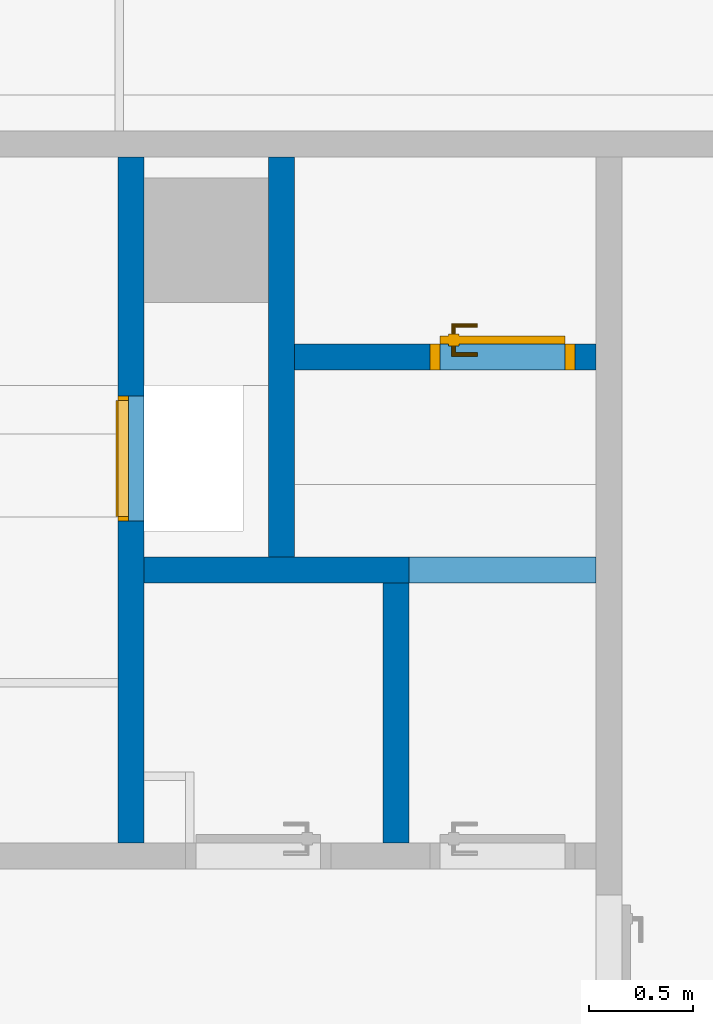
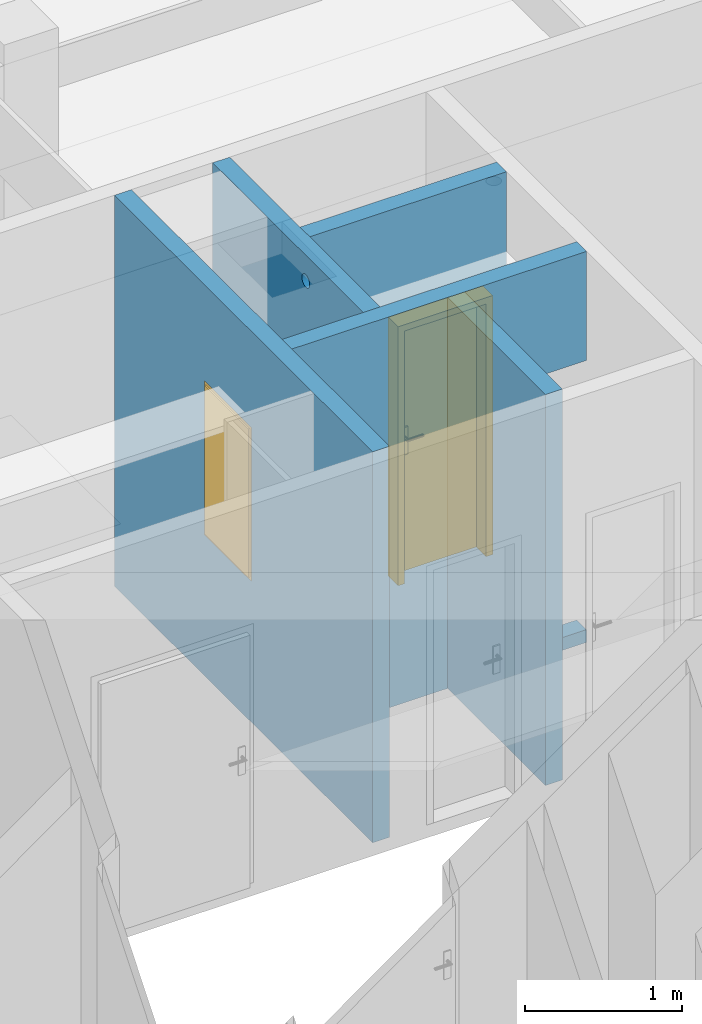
# One storey, part 38 of 84: 5 walls, 1 door, 1 window, 4 openings.
"""IFC4 building model written with IfcOpenShell, lengths in metres."""

from ifc_helpers import new_model, entity, si_unit, converted_unit, derived_unit, frame, frame_2d, origin, origin_with_axes, place, context, subcontext, project, spatial, polyline, rectangle, outline, extrude, closed_shell, open_shell, faceted_brep, surface_model, source, transform, mapped, material, layer, layer_set, layer_usage, type_object, element, fill, save


model = new_model("IFC4")

# Units and contexts
model_context = context("Model", 3, precision=1e-05, world=origin())
body_context = subcontext(model_context, "Body", "Model", "MODEL_VIEW")
ifc_project = project(units=[si_unit("LENGTHUNIT", "METRE"), si_unit("AREAUNIT", "SQUARE_METRE"), si_unit("VOLUMEUNIT", "CUBIC_METRE"), si_unit("MASSUNIT", "GRAM", prefix="KILO"), converted_unit("PLANEANGLEUNIT", "DEGREE", entity("IfcPlaneAngleMeasure", 0.0174532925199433), si_unit("PLANEANGLEUNIT", "RADIAN"), dimensions=[0, 0, 0, 0, 0, 0, 0]), derived_unit("THERMALTRANSMITTANCEUNIT", [(si_unit("POWERUNIT", "WATT"), 1), (si_unit("THERMODYNAMICTEMPERATUREUNIT", "KELVIN"), -1), (si_unit("LENGTHUNIT", "METRE"), -2)]), derived_unit("VOLUMETRICFLOWRATEUNIT", [(si_unit("LENGTHUNIT", "METRE"), 3), (converted_unit("TIMEUNIT", "hour", entity("IfcTimeMeasure", 3600.0), si_unit("TIMEUNIT", "SECOND"), dimensions=[0, 0, 1, 0, 0, 0, 0]), -1), (si_unit("LENGTHUNIT", "METRE"), -1)])], contexts=[model_context])

# Site, building, storey
site_placement = place(None, origin())
site = spatial("IfcSite", under=ifc_project, at=site_placement, Name="3. ASŘ", CompositionType="ELEMENT")
building_placement = place(site_placement, origin())
building = spatial("IfcBuilding", under=site, at=building_placement, Name="Pavilon C", CompositionType="ELEMENT")
storey_placement = place(building_placement, frame((0.0, 0.0, -3.3)))
storey = spatial("IfcBuildingStorey", under=building, at=storey_placement, Name="Půdorys 1.PP", CompositionType="ELEMENT", Elevation=-3.3)

# Wall, opening, window
ifc_material_1 = material(Name="ZDIVO Z CDm")
ifc_layer_1 = layer(ifc_material_1, 0.125)
ifc_layer_set_1 = layer_set([ifc_layer_1])
ifc_layer_usage_1 = layer_usage(ifc_layer_set_1, "AXIS2", "POSITIVE", 0.0)
wall_1_placement = place(storey_placement, frame((43.65, 16.3, -0.1), z_axis=(0.0, 0.0, 1.0), x_axis=(0.0, 1.0, 0.0)))
wall_1 = element("IfcWall", 1, at=wall_1_placement, inside=storey, material=ifc_layer_usage_1, Name="ZDIVO Z CDm", context=body_context, shape_type="SweptSolid", body=[
    extrude(rectangle(XDim=3.3, YDim=0.125, at=frame_2d((1.65, 0.0625), x_axis=(1.0, 0.0))), origin_with_axes(), (0.0, 0.0, 1.0), 3.05),
])
opening_1_placement = place(wall_1_placement, frame((2.14999999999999, 0.125, 1.1), z_axis=(0.0, -1.0, 0.0), x_axis=(0.0, 0.0, 1.0)))
opening_1 = element("IfcOpeningElement", 2, at=opening_1_placement, cuts=wall_1, Name="Okenní otvor", ObjectType="Opening", context=body_context, shape_type="SweptSolid", body=[
    extrude(outline(polyline([(0.0, 0.6), (1.2, 0.6), (1.2, 0.0), (0.0, 0.0), (0.0, 0.6)])), origin_with_axes(), (0.0, 0.0, 1.0), 0.125),
])
shared_shape_1 = source(origin_with_axes(), body_context, "Body", "Brep", [
    faceted_brep([(0.0, 0.0600000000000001, 1.2), (0.0, 0.06, 4.91096680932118e-19), (0.02, 0.06, 4.91096680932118e-19), (0.02, 0.0600000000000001, 1.2), (0.0, 0.01, 6.61433067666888e-18), (0.0, 0.0100000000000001, 1.2), (0.02, 0.0100000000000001, 1.2), (0.02, 0.01, 6.61433067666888e-18)], [[[0, 1, 2, 3]], [[4, 5, 6, 7]], [[1, 0, 5, 4]], [[2, 1, 4, 7]], [[3, 2, 7, 6]], [[0, 3, 6, 5]]], orient=[[False], [False], [False], [False], [False], [False]]),
    faceted_brep([(0.58, 0.0600000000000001, 1.2), (0.58, 0.06, 4.91096680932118e-19), (0.6, 0.06, 4.91096680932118e-19), (0.6, 0.0600000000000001, 1.2), (0.58, 0.01, 6.61433067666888e-18), (0.58, 0.0100000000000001, 1.2), (0.6, 0.0100000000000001, 1.2), (0.6, 0.01, 6.61433067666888e-18)], [[[0, 1, 2, 3]], [[4, 5, 6, 7]], [[1, 0, 5, 4]], [[2, 1, 4, 7]], [[3, 2, 7, 6]], [[0, 3, 6, 5]]], orient=[[False], [False], [False], [False], [False], [False]]),
    faceted_brep([(0.02, 0.06, 0.02), (0.02, 0.06, 4.91096680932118e-19), (0.58, 0.06, 4.91096680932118e-19), (0.58, 0.06, 0.02), (0.02, 0.01, 6.61433067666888e-18), (0.02, 0.01, 0.02), (0.58, 0.01, 0.02), (0.58, 0.01, 6.61433067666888e-18)], [[[0, 1, 2, 3]], [[4, 5, 6, 7]], [[1, 0, 5, 4]], [[2, 1, 4, 7]], [[3, 2, 7, 6]], [[0, 3, 6, 5]]], orient=[[False], [False], [False], [False], [False], [False]]),
    faceted_brep([(0.02, 0.0600000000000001, 1.2), (0.02, 0.0600000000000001, 1.18), (0.58, 0.0600000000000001, 1.18), (0.58, 0.0600000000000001, 1.2), (0.02, 0.0100000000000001, 1.18), (0.02, 0.0100000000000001, 1.2), (0.58, 0.0100000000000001, 1.2), (0.58, 0.0100000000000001, 1.18)], [[[0, 1, 2, 3]], [[4, 5, 6, 7]], [[1, 0, 5, 4]], [[2, 1, 4, 7]], [[3, 2, 7, 6]], [[0, 3, 6, 5]]], orient=[[False], [False], [False], [False], [False], [False]]),
    faceted_brep([(0.02, 0.0100000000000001, 1.18), (0.02, 0.01, 0.02), (0.58, 0.01, 0.02), (0.58, 0.0100000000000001, 1.18), (0.02, 0.0, 0.02), (0.02, 1.4210854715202e-16, 1.18), (0.58, 1.4210854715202e-16, 1.18), (0.58, 0.0, 0.02)], [[[0, 1, 2, 3]], [[4, 5, 6, 7]], [[1, 0, 5, 4]], [[2, 1, 4, 7]], [[3, 2, 7, 6]], [[0, 3, 6, 5]]], orient=[[False], [False], [False], [False], [False], [False]]),
])
window_placement = place(opening_1_placement, frame((0.0, 7.27595761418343e-15, -0.0100000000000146), z_axis=(1.0, 0.0, 0.0), x_axis=(0.0, 1.0, 1.22464679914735e-16)))
window = element("IfcWindow", 3, at=window_placement, inside=storey, Name="O01", OverallHeight=1.2, OverallWidth=0.6, PartitioningType="USERDEFINED", PredefinedType="WINDOW", context=body_context, shape_type="MappedRepresentation", body=[
    mapped(shared_shape_1, transform((0.0, 0.0, 0.0), x_axis=(1.0, 0.0, 0.0), y_axis=(0.0, 1.0, 0.0), z_axis=(0.0, 0.0, 1.0), scale=1.0)),
])
fill(opening_1, window)

# Wall, opening, door
ifc_material_2 = material(Name="ZDIVO Z CDm")
ifc_layer_2 = layer(ifc_material_2, 0.125)
ifc_layer_set_2 = layer_set([ifc_layer_2])
ifc_layer_usage_2 = layer_usage(ifc_layer_set_2, "AXIS2", "POSITIVE", 0.0)
wall_2_placement = place(storey_placement, frame((45.825, 18.7, -0.1), z_axis=(0.0, 0.0, 1.0), x_axis=(-1.0, 0.0, 0.0)))
wall_2 = element("IfcWall", 4, at=wall_2_placement, inside=storey, material=ifc_layer_usage_2, Name="ZDIVO Z CDm", context=body_context, shape_type="SweptSolid", body=[
    extrude(rectangle(XDim=1.45, YDim=0.125, at=frame_2d((0.725, 0.0625), x_axis=(1.0, 0.0))), origin_with_axes(), (0.0, 0.0, 1.0), 3.05),
])
opening_2_placement = place(wall_2_placement, frame((0.1, 0.0, 0.1), z_axis=(0.0, 1.0, 0.0), x_axis=(0.0, 0.0, 1.0)))
opening_2 = element("IfcOpeningElement", 5, at=opening_2_placement, cuts=wall_2, Name="Dveřní otvor", ObjectType="Opening", context=body_context, shape_type="SweptSolid", body=[
    extrude(outline(polyline([(0.0, 0.7), (2.02, 0.7), (2.02, 0.0), (0.0, 0.0), (0.0, 0.7)])), origin_with_axes(), (0.0, 0.0, 1.0), 0.125),
])
door_type = type_object("IfcDoorType", Name="D101", OperationType="NOTDEFINED", ParameterTakesPrecedence=False, PredefinedType="DOOR")
shared_shape_2 = source(origin_with_axes(), body_context, "Body", "SurfaceModel", [
    surface_model("IfcShellBasedSurfaceModel", [(0.0, 0.125, 2.02), (0.0, 0.125, -7.65404249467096e-18), (0.05, 0.125, -7.65404249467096e-18), (0.05, 0.125, 2.02), (0.0, 0.0, 7.65404249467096e-18), (0.0, 2.41584530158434e-16, 2.02), (0.05, 2.41584530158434e-16, 2.02), (0.05, 0.0, 7.65404249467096e-18)], [closed_shell([[[0, 1, 2, 3]], [[4, 5, 6, 7]], [[1, 0, 5, 4]], [[2, 1, 4, 7]], [[3, 2, 7, 6]], [[0, 3, 6, 5]]], orient=[[False], [False], [False], [False], [False], [False]])]),
    surface_model("IfcShellBasedSurfaceModel", [(0.65, 0.125, 2.02), (0.65, 0.125, -7.65404249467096e-18), (0.7, 0.125, -7.65404249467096e-18), (0.7, 0.125, 2.02), (0.65, 0.0, 7.65404249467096e-18), (0.65, 2.41584530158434e-16, 2.02), (0.7, 2.41584530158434e-16, 2.02), (0.7, 0.0, 7.65404249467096e-18)], [closed_shell([[[0, 1, 2, 3]], [[4, 5, 6, 7]], [[1, 0, 5, 4]], [[2, 1, 4, 7]], [[3, 2, 7, 6]], [[0, 3, 6, 5]]], orient=[[False], [False], [False], [False], [False], [False]])]),
    surface_model("IfcShellBasedSurfaceModel", [(0.05, 0.125, 2.02), (0.05, 0.125, 1.97), (0.65, 0.125, 1.97), (0.65, 0.125, 2.02), (0.05, 2.41584530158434e-16, 1.97), (0.05, 2.41584530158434e-16, 2.02), (0.65, 2.41584530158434e-16, 2.02), (0.65, 2.41584530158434e-16, 1.97)], [closed_shell([[[0, 1, 2, 3]], [[4, 5, 6, 7]], [[1, 0, 5, 4]], [[2, 1, 4, 7]], [[3, 2, 7, 6]], [[0, 3, 6, 5]]], orient=[[False], [False], [False], [False], [False], [False]])]),
    surface_model("IfcShellBasedSurfaceModel", [(0.05, 0.165, 1.97), (0.05, 0.165, -1.25526296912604e-17), (0.65, 0.165, -1.25526296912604e-17), (0.65, 0.165, 1.97), (0.05, 0.125, -7.65404249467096e-18), (0.05, 0.125, 1.97), (0.65, 0.125, 1.97), (0.65, 0.125, -7.65404249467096e-18)], [closed_shell([[[0, 1, 2, 3]], [[4, 5, 6, 7]], [[1, 0, 5, 4]], [[2, 1, 4, 7]], [[3, 2, 7, 6]], [[0, 3, 6, 5]]], orient=[[False], [False], [False], [False], [False], [False]])]),
    surface_model("IfcShellBasedSurfaceModel", [(0.56, 0.125, 1.125), (0.56, 0.125, 0.91), (0.61, 0.125, 0.91), (0.61, 0.125, 1.125), (0.56, 0.115, 0.91), (0.56, 0.115, 1.125), (0.61, 0.115, 1.125), (0.61, 0.115, 0.91)], [closed_shell([[[0, 1, 2, 3]], [[4, 5, 6, 7]], [[1, 0, 5, 4]], [[2, 1, 4, 7]], [[3, 2, 7, 6]], [[0, 3, 6, 5]]], orient=[[False], [False], [False], [False], [False], [False]])]),
    surface_model("IfcShellBasedSurfaceModel", [(0.585, 0.115, 1.06), (0.58, 0.115, 1.05866025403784), (0.576339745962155, 0.115, 1.055), (0.575, 0.115, 1.05), (0.576339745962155, 0.115, 1.045), (0.58, 0.115, 1.04133974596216), (0.585, 0.115, 1.04), (0.59, 0.115, 1.04133974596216), (0.593660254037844, 0.115, 1.045), (0.595, 0.115, 1.05), (0.593660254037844, 0.115, 1.055), (0.59, 0.115, 1.05866025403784), (0.59, 0.0700000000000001, 1.05866025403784), (0.585, 0.0750000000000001, 1.06), (0.593660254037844, 0.0663397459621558, 1.055), (0.595, 0.0650000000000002, 1.05), (0.593660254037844, 0.0663397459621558, 1.045), (0.59, 0.0700000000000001, 1.04133974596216), (0.585, 0.0750000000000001, 1.04), (0.58, 0.0800000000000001, 1.04133974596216), (0.576339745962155, 0.0836602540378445, 1.045), (0.575, 0.0850000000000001, 1.05), (0.576339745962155, 0.0836602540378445, 1.055), (0.58, 0.0800000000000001, 1.05866025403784), (0.47, 0.0700000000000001, 1.05866025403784), (0.47, 0.0750000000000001, 1.06), (0.47, 0.0663397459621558, 1.055), (0.47, 0.0650000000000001, 1.05), (0.47, 0.0663397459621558, 1.045), (0.47, 0.0700000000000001, 1.04133974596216), (0.47, 0.0750000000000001, 1.04), (0.47, 0.0800000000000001, 1.04133974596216), (0.47, 0.0836602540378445, 1.045), (0.47, 0.0850000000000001, 1.05), (0.47, 0.0836602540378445, 1.055), (0.47, 0.0800000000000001, 1.05866025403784)], [open_shell([[[0, 1, 2, 3, 4, 5, 6, 7, 8, 9, 10, 11]], [[0, 11, 12, 13]], [[11, 10, 14, 12]], [[10, 9, 15, 14]], [[9, 8, 16, 15]], [[8, 7, 17, 16]], [[7, 6, 18, 17]], [[6, 5, 19, 18]], [[5, 4, 20, 19]], [[4, 3, 21, 20]], [[3, 2, 22, 21]], [[2, 1, 23, 22]], [[1, 0, 13, 23]], [[13, 12, 24, 25]], [[12, 14, 26, 24]], [[14, 15, 27, 26]], [[15, 16, 28, 27]], [[16, 17, 29, 28]], [[17, 18, 30, 29]], [[18, 19, 31, 30]], [[19, 20, 32, 31]], [[20, 21, 33, 32]], [[21, 22, 34, 33]], [[22, 23, 35, 34]], [[23, 13, 25, 35]]], orient=[[False], [False], [False], [False], [False], [False], [False], [False], [False], [False], [False], [False], [False], [False], [False], [False], [False], [False], [False], [False], [False], [False], [False], [False], [False]])]),
    surface_model("IfcShellBasedSurfaceModel", [(0.56, 0.165, 1.125), (0.61, 0.165, 1.125), (0.61, 0.165, 0.91), (0.56, 0.165, 0.91), (0.56, 0.175, 0.91), (0.61, 0.175, 0.91), (0.61, 0.175, 1.125), (0.56, 0.175, 1.125)], [closed_shell([[[0, 1, 2, 3]], [[4, 5, 6, 7]], [[3, 4, 7, 0]], [[2, 5, 4, 3]], [[1, 6, 5, 2]], [[0, 7, 6, 1]]], orient=[[False], [False], [False], [False], [False], [False]])]),
    surface_model("IfcShellBasedSurfaceModel", [(0.585, 0.175, 1.06), (0.59, 0.175, 1.05866025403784), (0.593660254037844, 0.175, 1.055), (0.595, 0.175, 1.05), (0.593660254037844, 0.175, 1.045), (0.59, 0.175, 1.04133974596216), (0.585, 0.175, 1.04), (0.58, 0.175, 1.04133974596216), (0.576339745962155, 0.175, 1.045), (0.575, 0.175, 1.05), (0.576339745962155, 0.175, 1.055), (0.58, 0.175, 1.05866025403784), (0.585, 0.215, 1.06), (0.59, 0.22, 1.05866025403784), (0.593660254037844, 0.223660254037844, 1.055), (0.595, 0.225, 1.05), (0.593660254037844, 0.223660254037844, 1.045), (0.59, 0.22, 1.04133974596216), (0.585, 0.215, 1.04), (0.58, 0.21, 1.04133974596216), (0.576339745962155, 0.206339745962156, 1.045), (0.575, 0.205, 1.05), (0.576339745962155, 0.206339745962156, 1.055), (0.58, 0.21, 1.05866025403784), (0.47, 0.215, 1.06), (0.47, 0.22, 1.05866025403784), (0.47, 0.223660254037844, 1.055), (0.47, 0.225, 1.05), (0.47, 0.223660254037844, 1.045), (0.47, 0.22, 1.04133974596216), (0.47, 0.215, 1.04), (0.47, 0.21, 1.04133974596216), (0.47, 0.206339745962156, 1.045), (0.47, 0.205, 1.05), (0.47, 0.206339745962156, 1.055), (0.47, 0.21, 1.05866025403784)], [open_shell([[[0, 1, 2, 3, 4, 5, 6, 7, 8, 9, 10, 11]], [[0, 12, 13, 1]], [[1, 13, 14, 2]], [[2, 14, 15, 3]], [[3, 15, 16, 4]], [[4, 16, 17, 5]], [[5, 17, 18, 6]], [[6, 18, 19, 7]], [[7, 19, 20, 8]], [[8, 20, 21, 9]], [[9, 21, 22, 10]], [[10, 22, 23, 11]], [[11, 23, 12, 0]], [[12, 24, 25, 13]], [[13, 25, 26, 14]], [[14, 26, 27, 15]], [[15, 27, 28, 16]], [[16, 28, 29, 17]], [[17, 29, 30, 18]], [[18, 30, 31, 19]], [[19, 31, 32, 20]], [[20, 32, 33, 21]], [[21, 33, 34, 22]], [[22, 34, 35, 23]], [[23, 35, 24, 12]]], orient=[[False], [False], [False], [False], [False], [False], [False], [False], [False], [False], [False], [False], [False], [False], [False], [False], [False], [False], [False], [False], [False], [False], [False], [False], [False]])]),
])
door_placement = place(opening_2_placement, frame((0.0, 0.0, 0.125), z_axis=(1.0, 0.0, 0.0), x_axis=(0.0, 1.0, -2.44929359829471e-16)))
door = element("IfcDoor", 6, at=door_placement, inside=storey, type_object=door_type, Name="D101", OverallHeight=2.02, OverallWidth=0.7, context=body_context, shape_type="MappedRepresentation", body=[
    mapped(shared_shape_2, transform((0.0, 0.0, 0.0), x_axis=(1.0, 0.0, 0.0), y_axis=(0.0, -1.0, 0.0), z_axis=(0.0, 0.0, 1.0), scale=1.0)),
])
fill(opening_2, door)

# Wall, opening
ifc_material_3 = material(Name="ZDIVO Z CDm")
ifc_layer_3 = layer(ifc_material_3, 0.125)
ifc_layer_set_3 = layer_set([ifc_layer_3])
ifc_layer_usage_3 = layer_usage(ifc_layer_set_3, "AXIS2", "POSITIVE", 0.0)
wall_3_placement = place(storey_placement, frame((44.25, 19.6, -0.1), z_axis=(0.0, 0.0, 1.0), x_axis=(0.0, -1.0, 0.0)))
wall_3 = element("IfcWall", 7, at=wall_3_placement, inside=storey, material=ifc_layer_usage_3, Name="ZDIVO Z CDm", context=body_context, shape_type="SweptSolid", body=[
    extrude(rectangle(XDim=1.925, YDim=0.125, at=frame_2d((0.9625, 0.0625), x_axis=(1.0, 0.0))), origin_with_axes(), (0.0, 0.0, 1.0), 3.05),
])
opening_3_placement = place(wall_3_placement, frame((1.14, 0.0, 2.8), z_axis=(0.0, 1.0, 0.0), x_axis=(0.0, 0.0, 1.0)))
element("IfcOpeningElement", 8, at=opening_3_placement, cuts=wall_3, Name="ZTI", ObjectType="Opening", context=body_context, shape_type="SweptSolid", body=[
    extrude(outline(polyline([(0.0499999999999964, 0.0), (0.0447735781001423, 0.000273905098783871), (0.0396044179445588, 0.00109261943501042), (0.034549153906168, 0.00244717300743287), (0.0296631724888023, 0.00432272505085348), (0.0250000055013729, 0.00669872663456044), (0.0206107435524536, 0.00954914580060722), (0.0165434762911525, 0.0128427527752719), (0.0128427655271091, 0.0165434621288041), (0.00954915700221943, 0.0206107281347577), (0.00669873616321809, 0.0249999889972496), (0.00432273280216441, 0.0296631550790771), (0.0024471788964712, 0.0345491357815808), (0.00109262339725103, 0.039604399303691), (0.000273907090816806, 0.0447735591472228), (0.0, 0.0499999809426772), (0.000273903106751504, 0.0552264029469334), (0.00109261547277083, 0.0603955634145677), (0.00244716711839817, 0.0654508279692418), (0.00432271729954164, 0.0703368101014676), (0.00669871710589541, 0.0749999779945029), (0.00954913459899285, 0.0793892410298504), (0.0128427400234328, 0.0834565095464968), (0.01654344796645, 0.0871572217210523), (0.0206107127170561, 0.0904508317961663), (0.0249999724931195, 0.0933012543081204), (0.0296631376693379, 0.0956772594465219), (0.0345491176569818, 0.0975528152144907), (0.0396043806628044, 0.0989073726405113), (0.0447735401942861, 0.0997260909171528), (0.0499999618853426, 0.1), (0.0552264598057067, 0.0997260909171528), (0.0603956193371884, 0.0989073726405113), (0.0654508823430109, 0.0975528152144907), (0.0703368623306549, 0.0956772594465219), (0.0750000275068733, 0.0933012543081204), (0.0793892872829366, 0.0904508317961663), (0.0834565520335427, 0.0871572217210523), (0.0871572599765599, 0.0834565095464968), (0.0904508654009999, 0.0793892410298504), (0.0933012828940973, 0.0749999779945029), (0.0956772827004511, 0.0703368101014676), (0.0975528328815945, 0.0654508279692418), (0.0989073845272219, 0.0603955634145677), (0.0997260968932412, 0.0552264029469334), (0.0999999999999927, 0.0499999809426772), (0.099726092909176, 0.0447735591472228), (0.0989073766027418, 0.039604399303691), (0.0975528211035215, 0.0345491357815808), (0.0956772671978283, 0.0296631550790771), (0.0933012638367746, 0.0249999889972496), (0.0904508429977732, 0.0206107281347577), (0.0871572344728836, 0.0165434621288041), (0.0834565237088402, 0.0128427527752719), (0.0793892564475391, 0.00954914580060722), (0.0749999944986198, 0.00669872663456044), (0.0703368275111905, 0.00432272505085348), (0.0654508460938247, 0.00244717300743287), (0.0603955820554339, 0.00109261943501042), (0.0552264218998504, 0.000273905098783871), (0.0499999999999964, 0.0)])), origin_with_axes(), (0.0, 0.0, 1.0), 0.125),
])

# Wall
ifc_material_4 = material(Name="ZDIVO Z CDm")
ifc_layer_4 = layer(ifc_material_4, 0.125)
ifc_layer_set_4 = layer_set([ifc_layer_4])
ifc_layer_usage_4 = layer_usage(ifc_layer_set_4, "AXIS2", "POSITIVE", 0.0)
wall_4_placement = place(storey_placement, frame((44.8, 17.55, -0.1), z_axis=(0.0, 0.0, 1.0), x_axis=(0.0, -1.0, 0.0)))
element("IfcWall", 9, at=wall_4_placement, inside=storey, material=ifc_layer_usage_4, Name="ZDIVO Z CDm", context=body_context, shape_type="SweptSolid", body=[
    extrude(rectangle(XDim=1.25, YDim=0.125, at=frame_2d((0.625, 0.0625), x_axis=(1.0, 0.0))), origin_with_axes(), (0.0, 0.0, 1.0), 3.05),
])

# Wall, opening
ifc_material_5 = material(Name="ZDIVO Z CDm")
ifc_layer_5 = layer(ifc_material_5, 0.125)
ifc_layer_set_5 = layer_set([ifc_layer_5])
ifc_layer_usage_5 = layer_usage(ifc_layer_set_5, "AXIS2", "POSITIVE", 0.0)
wall_5_placement = place(storey_placement, frame((45.825, 17.675, -0.1), z_axis=(0.0, 0.0, 1.0), x_axis=(-1.0, 0.0, 0.0)))
wall_5 = element("IfcWall", 10, at=wall_5_placement, inside=storey, material=ifc_layer_usage_5, Name="ZDIVO Z CDm", context=body_context, shape_type="SweptSolid", body=[
    extrude(rectangle(XDim=2.175, YDim=0.125, at=frame_2d((1.0875, 0.0625), x_axis=(1.0, 0.0))), origin_with_axes(), (0.0, 0.0, 1.0), 3.05),
])
opening_4_placement = place(wall_5_placement, frame((0.0, 0.0, 0.1), z_axis=(0.0, 1.0, 0.0), x_axis=(0.0, 0.0, 1.0)))
element("IfcOpeningElement", 11, at=opening_4_placement, cuts=wall_5, Name="Dveřní otvor", ObjectType="Opening", context=body_context, shape_type="SweptSolid", body=[
    extrude(outline(polyline([(0.0, 0.9), (2.1, 0.9), (2.1, 0.0), (0.0, 0.0), (0.0, 0.9)])), origin_with_axes(), (0.0, 0.0, 1.0), 0.125),
])

save(model, "model.ifc")
